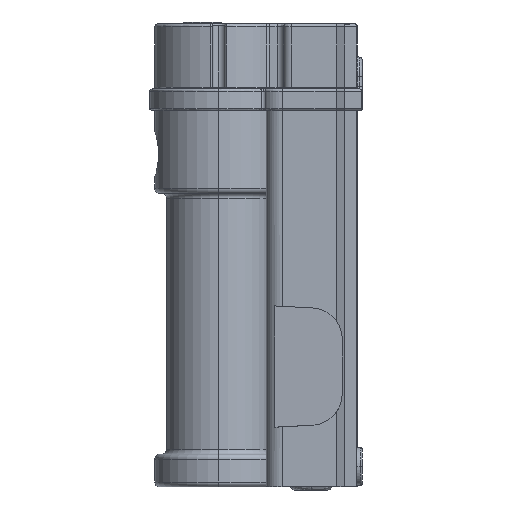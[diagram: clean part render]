
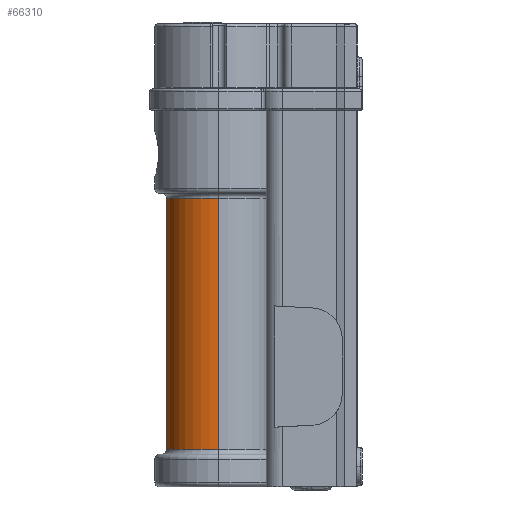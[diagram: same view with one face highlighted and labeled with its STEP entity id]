
A CAD part, left-side view. The second image highlights one B-rep face of the part: STEP entity #66310.
In plain terms, the highlighted cylindrical face has radius 32 mm (diameter 64 mm), a partial arc.
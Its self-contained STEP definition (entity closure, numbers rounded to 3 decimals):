
#1718 = CIRCLE ( 'NONE', #43948, 32. ) ;
#2087 = EDGE_CURVE ( 'NONE', #16662, #65509, #54671, .T. ) ;
#4193 = CIRCLE ( 'NONE', #49582, 32. ) ;
#7852 = VERTEX_POINT ( 'NONE', #47738 ) ;
#10693 = CARTESIAN_POINT ( 'NONE',  ( 32., 84.75, -181. ) ) ;
#11737 = ORIENTED_EDGE ( 'NONE', *, *, #55218, .F. ) ;
#13015 = ORIENTED_EDGE ( 'NONE', *, *, #66959, .T. ) ;
#15700 = AXIS2_PLACEMENT_3D ( 'NONE', #66538, #27434, #19668 ) ;
#16662 = VERTEX_POINT ( 'NONE', #26402 ) ;
#17025 = DIRECTION ( 'NONE',  ( 0., 0., -1. ) ) ;
#17449 = EDGE_LOOP ( 'NONE', ( #13015, #67783, #36438, #11737 ) ) ;
#17915 = CARTESIAN_POINT ( 'NONE',  ( 0., 84.75, -181. ) ) ;
#19668 = DIRECTION ( 'NONE',  ( -1., 0., 0. ) ) ;
#21558 = CARTESIAN_POINT ( 'NONE',  ( -32., 84.75, -27. ) ) ;
#21566 = FACE_OUTER_BOUND ( 'NONE', #17449, .T. ) ;
#23831 = DIRECTION ( 'NONE',  ( -1., 0., 0. ) ) ;
#24761 = CARTESIAN_POINT ( 'NONE',  ( -32., 84.75, 66.51 ) ) ;
#26402 = CARTESIAN_POINT ( 'NONE',  ( 32., 84.75, -27. ) ) ;
#27434 = DIRECTION ( 'NONE',  ( 0., 0., -1. ) ) ;
#29353 = CYLINDRICAL_SURFACE ( 'NONE', #15700, 32. ) ;
#31611 = DIRECTION ( 'NONE',  ( 0., 0., 1. ) ) ;
#33326 = VECTOR ( 'NONE', #17025, 1000. ) ;
#35826 = EDGE_CURVE ( 'NONE', #65509, #7852, #1718, .T. ) ;
#36438 = ORIENTED_EDGE ( 'NONE', *, *, #35826, .T. ) ;
#38847 = VECTOR ( 'NONE', #39009, 1000. ) ;
#39009 = DIRECTION ( 'NONE',  ( 0., 0., -1. ) ) ;
#43095 = CARTESIAN_POINT ( 'NONE',  ( 0., 84.75, -27. ) ) ;
#43948 = AXIS2_PLACEMENT_3D ( 'NONE', #17915, #31611, #23831 ) ;
#46849 = CARTESIAN_POINT ( 'NONE',  ( 32., 84.75, 66.51 ) ) ;
#47738 = CARTESIAN_POINT ( 'NONE',  ( -32., 84.75, -181. ) ) ;
#49582 = AXIS2_PLACEMENT_3D ( 'NONE', #43095, #72591, #64693 ) ;
#54671 = LINE ( 'NONE', #46849, #38847 ) ;
#55218 = EDGE_CURVE ( 'NONE', #68968, #7852, #56019, .T. ) ;
#56019 = LINE ( 'NONE', #24761, #33326 ) ;
#64693 = DIRECTION ( 'NONE',  ( 1., 0., 0. ) ) ;
#65509 = VERTEX_POINT ( 'NONE', #10693 ) ;
#66310 = ADVANCED_FACE ( 'NONE', ( #21566 ), #29353, .T. ) ;
#66538 = CARTESIAN_POINT ( 'NONE',  ( 0., 84.75, 66.51 ) ) ;
#66959 = EDGE_CURVE ( 'NONE', #68968, #16662, #4193, .T. ) ;
#67783 = ORIENTED_EDGE ( 'NONE', *, *, #2087, .T. ) ;
#68968 = VERTEX_POINT ( 'NONE', #21558 ) ;
#72591 = DIRECTION ( 'NONE',  ( 0., 0., -1. ) ) ;
